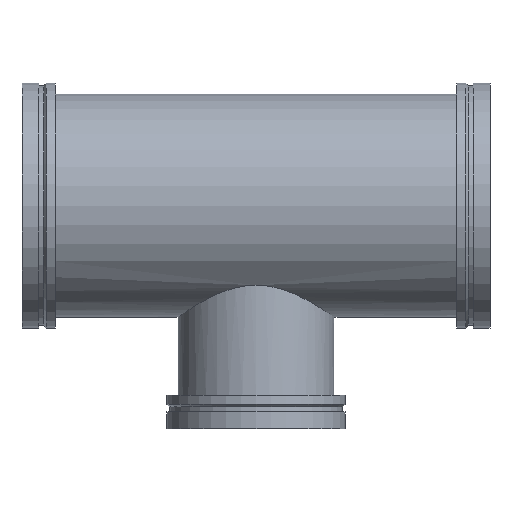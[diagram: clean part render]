
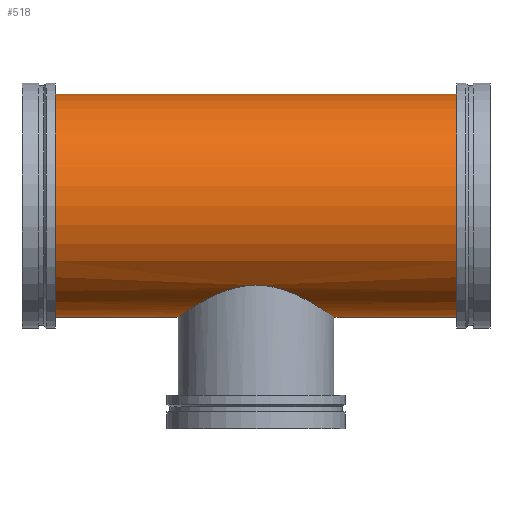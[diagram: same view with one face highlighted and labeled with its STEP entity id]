
A CAD part, top view. The second image highlights one B-rep face of the part: STEP entity #518.
In plain terms, the highlighted cylindrical face has radius 254 mm (diameter 508 mm), a full revolution.
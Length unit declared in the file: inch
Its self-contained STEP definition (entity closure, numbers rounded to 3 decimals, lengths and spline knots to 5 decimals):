
#51=FACE_BOUND('',#106,.T.);
#77=FACE_OUTER_BOUND('',#105,.T.);
#105=EDGE_LOOP('',(#381,#382,#383,#384,#385,#386));
#106=EDGE_LOOP('',(#387,#388));
#145=CIRCLE('',#580,10.);
#146=CIRCLE('',#581,10.);
#147=CIRCLE('',#582,10.);
#148=CIRCLE('',#583,10.);
#183=LINE('',#1064,#199);
#199=VECTOR('',#704,10.);
#211=B_SPLINE_CURVE_WITH_KNOTS('',3,(#926,#927,#928,#929,#930,#931,#932,
#933,#934,#935,#936,#937,#938,#939,#940,#941,#942,#943,#944,#945,#946,#947,
#948,#949,#950,#951,#952,#953,#954,#955,#956,#957,#958,#959,#960,#961,#962,
#963,#964,#965,#966,#967,#968,#969,#970,#971,#972,#973,#974,#975,#976,#977,
#978,#979,#980,#981,#982,#983,#984,#985,#986,#987,#988,#989,#990,#991,#992,
#993),.UNSPECIFIED.,.F.,.F.,(4,2,2,2,2,2,2,2,2,2,2,2,2,2,2,2,2,2,2,2,2,
2,2,2,2,2,2,2,2,2,2,2,2,4),(0.,1.76668,3.53336,7.06673,
10.60009,14.13346,17.61639,21.09933,22.84079,
24.58226,26.32373,28.06519,29.80666,31.54813,
33.2896,35.03106,38.514,41.99693,45.5303,
49.06366,52.59703,54.36371,56.13039,57.89707,
59.66375,63.19712,66.73048,70.26385,73.74678,
77.22972,78.97118,80.71265,82.45412,84.19558),
 .UNSPECIFIED.);
#212=B_SPLINE_CURVE_WITH_KNOTS('',3,(#994,#995,#996,#997,#998,#999,#1000,
#1001,#1002,#1003,#1004,#1005,#1006,#1007,#1008,#1009,#1010,#1011,#1012,
#1013,#1014,#1015,#1016,#1017),.UNSPECIFIED.,.F.,.F.,(4,2,2,2,2,2,2,2,2,
2,2,4),(84.19558,85.93705,87.67852,89.41999,
91.16145,94.64439,98.12732,101.66069,105.19405,
108.72742,110.4941,112.26078),.UNSPECIFIED.);
#217=VERTEX_POINT('',#924);
#218=VERTEX_POINT('',#925);
#233=VERTEX_POINT('',#1059);
#234=VERTEX_POINT('',#1060);
#235=VERTEX_POINT('',#1063);
#236=VERTEX_POINT('',#1065);
#270=EDGE_CURVE('',#217,#218,#211,.T.);
#271=EDGE_CURVE('',#218,#217,#212,.T.);
#291=EDGE_CURVE('',#233,#234,#145,.T.);
#292=EDGE_CURVE('',#234,#233,#146,.T.);
#293=EDGE_CURVE('',#234,#235,#183,.T.);
#294=EDGE_CURVE('',#235,#236,#147,.T.);
#295=EDGE_CURVE('',#236,#235,#148,.T.);
#381=ORIENTED_EDGE('',*,*,#291,.F.);
#382=ORIENTED_EDGE('',*,*,#292,.F.);
#383=ORIENTED_EDGE('',*,*,#293,.T.);
#384=ORIENTED_EDGE('',*,*,#294,.T.);
#385=ORIENTED_EDGE('',*,*,#295,.T.);
#386=ORIENTED_EDGE('',*,*,#293,.F.);
#387=ORIENTED_EDGE('',*,*,#270,.T.);
#388=ORIENTED_EDGE('',*,*,#271,.T.);
#474=CYLINDRICAL_SURFACE('',#579,10.);
#518=ADVANCED_FACE('',(#77,#51),#474,.T.);
#579=AXIS2_PLACEMENT_3D('',#1058,#698,#699);
#580=AXIS2_PLACEMENT_3D('',#1061,#700,#701);
#581=AXIS2_PLACEMENT_3D('',#1062,#702,#703);
#582=AXIS2_PLACEMENT_3D('',#1066,#705,#706);
#583=AXIS2_PLACEMENT_3D('',#1067,#707,#708);
#698=DIRECTION('center_axis',(1.,0.,0.));
#699=DIRECTION('ref_axis',(0.,-1.,0.));
#700=DIRECTION('center_axis',(1.,0.,0.));
#701=DIRECTION('ref_axis',(0.,0.,1.));
#702=DIRECTION('center_axis',(1.,0.,0.));
#703=DIRECTION('ref_axis',(0.,0.,1.));
#704=DIRECTION('',(-1.,0.,0.));
#705=DIRECTION('center_axis',(1.,0.,0.));
#706=DIRECTION('ref_axis',(0.,0.,1.));
#707=DIRECTION('center_axis',(1.,0.,0.));
#708=DIRECTION('ref_axis',(0.,0.,1.));
#924=CARTESIAN_POINT('',(0.,-7.14143,7.));
#925=CARTESIAN_POINT('',(-7.,-10.,0.));
#926=CARTESIAN_POINT('Ctrl Pts',(0.,-7.14143,7.));
#927=CARTESIAN_POINT('Ctrl Pts',(0.23185,-7.14143,7.));
#928=CARTESIAN_POINT('Ctrl Pts',(0.46508,-7.15281,6.98844));
#929=CARTESIAN_POINT('Ctrl Pts',(0.93027,-7.19804,6.94185));
#930=CARTESIAN_POINT('Ctrl Pts',(1.16222,-7.23188,6.90681));
#931=CARTESIAN_POINT('Ctrl Pts',(1.85046,-7.36352,6.7672));
#932=CARTESIAN_POINT('Ctrl Pts',(2.29916,-7.49184,6.62781));
#933=CARTESIAN_POINT('Ctrl Pts',(3.1515,-7.79573,6.26755));
#934=CARTESIAN_POINT('Ctrl Pts',(3.55604,-7.97109,6.04635));
#935=CARTESIAN_POINT('Ctrl Pts',(4.3031,-8.33124,5.53959));
#936=CARTESIAN_POINT('Ctrl Pts',(4.64561,-8.51582,5.25388));
#937=CARTESIAN_POINT('Ctrl Pts',(5.24954,-8.85985,4.64995));
#938=CARTESIAN_POINT('Ctrl Pts',(5.53439,-9.03275,4.30983));
#939=CARTESIAN_POINT('Ctrl Pts',(6.04251,-9.3527,3.56262));
#940=CARTESIAN_POINT('Ctrl Pts',(6.2658,-9.49958,3.15548));
#941=CARTESIAN_POINT('Ctrl Pts',(6.53808,-9.68204,2.51154));
#942=CARTESIAN_POINT('Ctrl Pts',(6.61858,-9.73668,2.29118));
#943=CARTESIAN_POINT('Ctrl Pts',(6.75719,-9.83143,1.84269));
#944=CARTESIAN_POINT('Ctrl Pts',(6.8153,-9.87153,1.61455));
#945=CARTESIAN_POINT('Ctrl Pts',(6.90811,-9.93583,1.1546));
#946=CARTESIAN_POINT('Ctrl Pts',(6.94281,-9.96004,0.92275));
#947=CARTESIAN_POINT('Ctrl Pts',(6.98876,-9.99212,0.45972));
#948=CARTESIAN_POINT('Ctrl Pts',(7.,-10.,0.22854));
#949=CARTESIAN_POINT('Ctrl Pts',(7.,-10.,-0.22854));
#950=CARTESIAN_POINT('Ctrl Pts',(6.98876,-9.99212,-0.45972));
#951=CARTESIAN_POINT('Ctrl Pts',(6.94281,-9.96004,-0.92275));
#952=CARTESIAN_POINT('Ctrl Pts',(6.90811,-9.93583,-1.1546));
#953=CARTESIAN_POINT('Ctrl Pts',(6.8153,-9.87153,-1.61455));
#954=CARTESIAN_POINT('Ctrl Pts',(6.75719,-9.83143,-1.84269));
#955=CARTESIAN_POINT('Ctrl Pts',(6.61858,-9.73668,-2.29118));
#956=CARTESIAN_POINT('Ctrl Pts',(6.53808,-9.68204,-2.51154));
#957=CARTESIAN_POINT('Ctrl Pts',(6.2658,-9.49958,-3.15548));
#958=CARTESIAN_POINT('Ctrl Pts',(6.04251,-9.3527,-3.56262));
#959=CARTESIAN_POINT('Ctrl Pts',(5.53439,-9.03275,-4.30983));
#960=CARTESIAN_POINT('Ctrl Pts',(5.24954,-8.85985,-4.64995));
#961=CARTESIAN_POINT('Ctrl Pts',(4.64561,-8.51582,-5.25388));
#962=CARTESIAN_POINT('Ctrl Pts',(4.3031,-8.33124,-5.53959));
#963=CARTESIAN_POINT('Ctrl Pts',(3.55604,-7.97109,-6.04635));
#964=CARTESIAN_POINT('Ctrl Pts',(3.1515,-7.79573,-6.26755));
#965=CARTESIAN_POINT('Ctrl Pts',(2.29916,-7.49184,-6.62781));
#966=CARTESIAN_POINT('Ctrl Pts',(1.85046,-7.36352,-6.7672));
#967=CARTESIAN_POINT('Ctrl Pts',(1.16222,-7.23188,-6.90681));
#968=CARTESIAN_POINT('Ctrl Pts',(0.93027,-7.19804,-6.94185));
#969=CARTESIAN_POINT('Ctrl Pts',(0.46508,-7.15281,-6.98844));
#970=CARTESIAN_POINT('Ctrl Pts',(0.23185,-7.14143,-7.));
#971=CARTESIAN_POINT('Ctrl Pts',(-0.23185,-7.14143,-7.));
#972=CARTESIAN_POINT('Ctrl Pts',(-0.46508,-7.15281,-6.98844));
#973=CARTESIAN_POINT('Ctrl Pts',(-0.93027,-7.19804,-6.94185));
#974=CARTESIAN_POINT('Ctrl Pts',(-1.16222,-7.23188,-6.90681));
#975=CARTESIAN_POINT('Ctrl Pts',(-1.85046,-7.36352,-6.7672));
#976=CARTESIAN_POINT('Ctrl Pts',(-2.29916,-7.49184,-6.62781));
#977=CARTESIAN_POINT('Ctrl Pts',(-3.1515,-7.79573,-6.26755));
#978=CARTESIAN_POINT('Ctrl Pts',(-3.55604,-7.97109,-6.04635));
#979=CARTESIAN_POINT('Ctrl Pts',(-4.3031,-8.33124,-5.53959));
#980=CARTESIAN_POINT('Ctrl Pts',(-4.64561,-8.51582,-5.25388));
#981=CARTESIAN_POINT('Ctrl Pts',(-5.24954,-8.85985,-4.64995));
#982=CARTESIAN_POINT('Ctrl Pts',(-5.53439,-9.03275,-4.30983));
#983=CARTESIAN_POINT('Ctrl Pts',(-6.04251,-9.3527,-3.56262));
#984=CARTESIAN_POINT('Ctrl Pts',(-6.2658,-9.49958,-3.15548));
#985=CARTESIAN_POINT('Ctrl Pts',(-6.53808,-9.68204,-2.51154));
#986=CARTESIAN_POINT('Ctrl Pts',(-6.61858,-9.73668,-2.29118));
#987=CARTESIAN_POINT('Ctrl Pts',(-6.75719,-9.83143,-1.84269));
#988=CARTESIAN_POINT('Ctrl Pts',(-6.8153,-9.87153,-1.61455));
#989=CARTESIAN_POINT('Ctrl Pts',(-6.90811,-9.93583,-1.1546));
#990=CARTESIAN_POINT('Ctrl Pts',(-6.94281,-9.96004,-0.92275));
#991=CARTESIAN_POINT('Ctrl Pts',(-6.98876,-9.99212,-0.45972));
#992=CARTESIAN_POINT('Ctrl Pts',(-7.,-10.,-0.22854));
#993=CARTESIAN_POINT('Ctrl Pts',(-7.,-10.,0.));
#994=CARTESIAN_POINT('Ctrl Pts',(-7.,-10.,0.));
#995=CARTESIAN_POINT('Ctrl Pts',(-7.,-10.,0.22854));
#996=CARTESIAN_POINT('Ctrl Pts',(-6.98876,-9.99212,0.45972));
#997=CARTESIAN_POINT('Ctrl Pts',(-6.94281,-9.96004,0.92275));
#998=CARTESIAN_POINT('Ctrl Pts',(-6.90811,-9.93583,1.1546));
#999=CARTESIAN_POINT('Ctrl Pts',(-6.8153,-9.87153,1.61455));
#1000=CARTESIAN_POINT('Ctrl Pts',(-6.75719,-9.83143,1.84269));
#1001=CARTESIAN_POINT('Ctrl Pts',(-6.61858,-9.73668,2.29118));
#1002=CARTESIAN_POINT('Ctrl Pts',(-6.53808,-9.68204,2.51154));
#1003=CARTESIAN_POINT('Ctrl Pts',(-6.2658,-9.49958,3.15548));
#1004=CARTESIAN_POINT('Ctrl Pts',(-6.04251,-9.3527,3.56262));
#1005=CARTESIAN_POINT('Ctrl Pts',(-5.53439,-9.03275,4.30983));
#1006=CARTESIAN_POINT('Ctrl Pts',(-5.24954,-8.85985,4.64995));
#1007=CARTESIAN_POINT('Ctrl Pts',(-4.64561,-8.51582,5.25388));
#1008=CARTESIAN_POINT('Ctrl Pts',(-4.3031,-8.33124,5.53959));
#1009=CARTESIAN_POINT('Ctrl Pts',(-3.55604,-7.97109,6.04635));
#1010=CARTESIAN_POINT('Ctrl Pts',(-3.1515,-7.79573,6.26755));
#1011=CARTESIAN_POINT('Ctrl Pts',(-2.29916,-7.49184,6.62781));
#1012=CARTESIAN_POINT('Ctrl Pts',(-1.85046,-7.36352,6.7672));
#1013=CARTESIAN_POINT('Ctrl Pts',(-1.16222,-7.23188,6.90681));
#1014=CARTESIAN_POINT('Ctrl Pts',(-0.93027,-7.19804,
6.94185));
#1015=CARTESIAN_POINT('Ctrl Pts',(-0.46508,-7.15281,6.98844));
#1016=CARTESIAN_POINT('Ctrl Pts',(-0.23185,-7.14143,
7.));
#1017=CARTESIAN_POINT('Ctrl Pts',(0.,-7.14143,
7.));
#1058=CARTESIAN_POINT('Origin',(9.,0.,0.));
#1059=CARTESIAN_POINT('',(18.,-10.,0.));
#1060=CARTESIAN_POINT('',(18.,10.,0.));
#1061=CARTESIAN_POINT('Origin',(18.,0.,0.));
#1062=CARTESIAN_POINT('Origin',(18.,0.,0.));
#1063=CARTESIAN_POINT('',(-18.,10.,0.));
#1064=CARTESIAN_POINT('',(9.,10.,0.));
#1065=CARTESIAN_POINT('',(-18.,-10.,0.));
#1066=CARTESIAN_POINT('Origin',(-18.,0.,0.));
#1067=CARTESIAN_POINT('Origin',(-18.,0.,0.));
